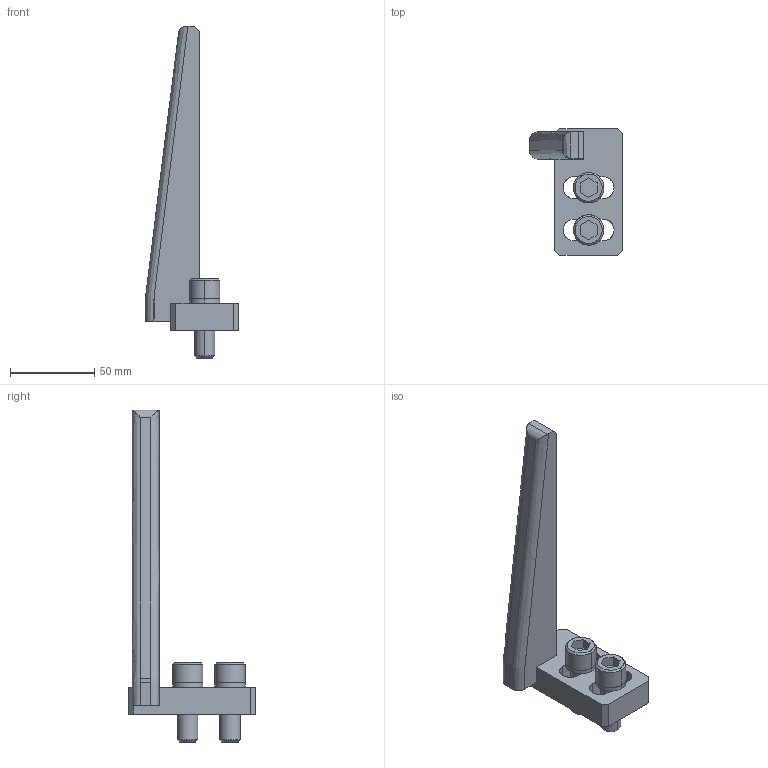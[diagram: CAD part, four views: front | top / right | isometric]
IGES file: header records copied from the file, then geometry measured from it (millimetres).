
Global section: file name: E:\UnigraphicsGraphicData\MISUMI_PRESS-PARTS\IGES\3d_nggbr-180-20-20_01498_r00.igs; native system: NX V5.0; preprocessor: UGS NX IGES V5.0; author: MISUMI; date: 20110105.162036; units: millimetre
Bounding box: 55 x 75 x 196.5 mm (x, y, z)
Surface area: 31111.9 mm2 (no closed solid volume)
Topology: 0 solids, 0 shells, 103 faces, 664 edges, 664 vertices
Faces by surface type: bspline 103
